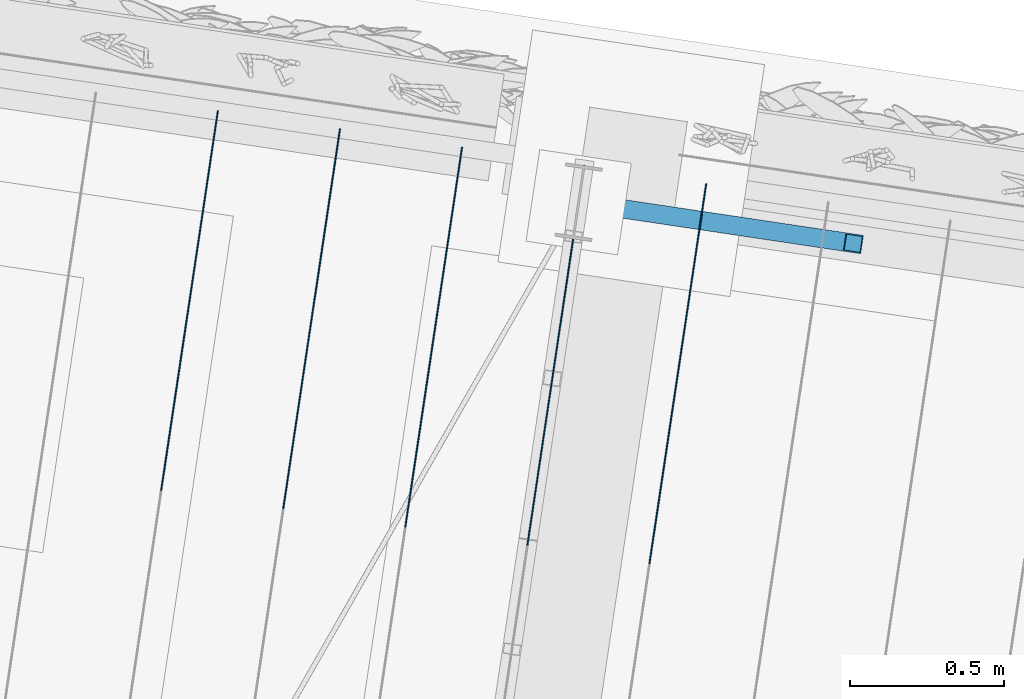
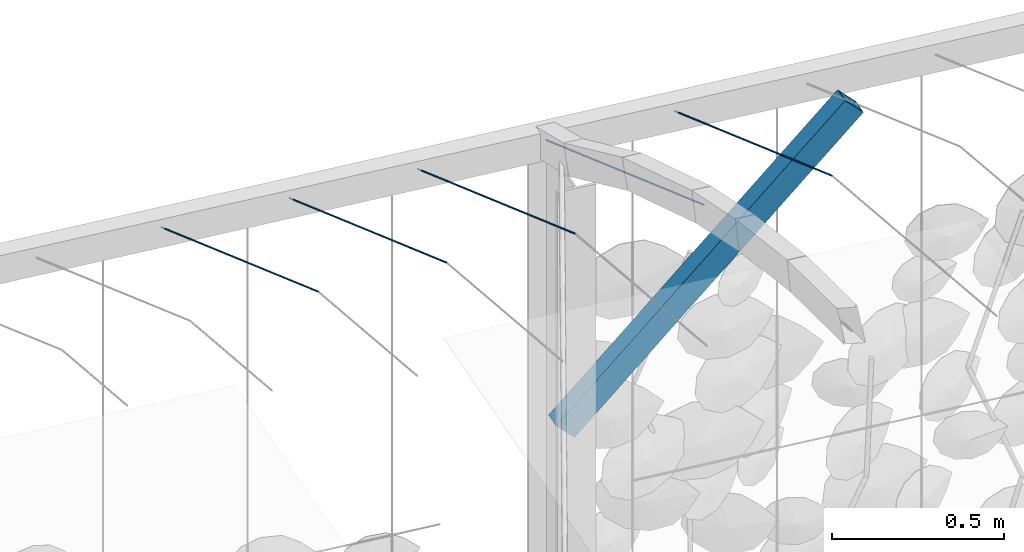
# One storey, part 34 of 142: 6 members, 1 element without a shape of its own.
"""IFC4 building model written with IfcOpenShell, lengths in metres."""

import ifcopenshell
import ifcopenshell.guid

model = None  # the IFC model being written
_history = None  # IfcOwnerHistory: only IFC2X3 demands one
_inside = {}  # id of a spatial element -> (the spatial element, [elements in it])
_under = {}  # id of a project, library or spatial element -> (it, [spatial elements below it])
_declared = {}  # id of a project -> (the project, [libraries it declares])
_typed = {}  # id of a type object -> (the type object, [elements of that type])
_made_of = {}  # id of a material, layer set ... -> (it, [elements and type objects made of it])


def new_model(schema):
    """Start an empty IFC model of exactly this schema.

    Asked for "IFC4X3", IfcOpenShell would pick the latest addendum, in which some entities
    have other attributes; the version numbers below select the first issue.
    IFC2X3 requires an IfcOwnerHistory on every rooted entity: one is made here for all.
    """
    global model, _history
    if schema == "IFC4X3":
        model = ifcopenshell.file(schema_version=(4, 3, 0, 0))
    else:
        model = ifcopenshell.file(schema=schema)
    _inside.clear()
    _under.clear()
    _declared.clear()
    _typed.clear()
    _made_of.clear()
    _history = None
    if model.schema == "IFC2X3":
        org = make("IfcOrganization", Name="unknown")
        user = make(
            "IfcPersonAndOrganization",
            ThePerson=make("IfcPerson", FamilyName="unknown"),
            TheOrganization=org,
        )
        app = make(
            "IfcApplication",
            ApplicationDeveloper=org,
            Version="unknown",
            ApplicationFullName="unknown",
            ApplicationIdentifier="unknown",
        )
        _history = make(
            "IfcOwnerHistory",
            OwningUser=user,
            OwningApplication=app,
            ChangeAction="ADDED",
            CreationDate=0,
        )
    return model


def make(cls, **values):
    """One entity of the class cls with the attributes given. An attribute that is None is left unset."""
    return model.create_entity(
        cls, **{name: value for name, value in values.items() if value is not None}
    )


def rooted(cls, **values):
    """An entity with a GlobalId (a new one), such as an element, a storey or a relation."""
    return make(cls, GlobalId=ifcopenshell.guid.new(), OwnerHistory=_history, **values)


def si_unit(unit_type, name, prefix=None):
    """IfcSIUnit, for example si_unit("LENGTHUNIT", "METRE", prefix="MILLI")."""
    return make("IfcSIUnit", UnitType=unit_type, Prefix=prefix, Name=name)


def assignment(units):
    """IfcUnitAssignment: the units of a project."""
    return None if units is None else make("IfcUnitAssignment", Units=units)


def point(xyz):
    """IfcCartesianPoint."""
    return None if xyz is None else make("IfcCartesianPoint", Coordinates=xyz)


def direction(xyz):
    """IfcDirection."""
    return None if xyz is None else make("IfcDirection", DirectionRatios=xyz)


def frame(location, z_axis=None, x_axis=None):
    """IfcAxis2Placement3D, a coordinate frame: its origin and axes. An axis left out is left unset."""
    return make(
        "IfcAxis2Placement3D",
        Location=point(location),
        Axis=direction(z_axis),
        RefDirection=direction(x_axis),
    )


def origin_with_axes():
    """The frame at (0, 0, 0) with the z axis (0, 0, 1) and the x axis (1, 0, 0) written out."""
    return frame((0.0, 0.0, 0.0), z_axis=(0.0, 0.0, 1.0), x_axis=(1.0, 0.0, 0.0))


def place(relative_to, where):
    """IfcLocalPlacement: puts the frame where relative to a parent placement (None: the world)."""
    return make(
        "IfcLocalPlacement", PlacementRelTo=relative_to, RelativePlacement=where
    )


def context(
    kind, dimensions, precision=None, world=None, true_north=None, identifier=None
):
    """IfcGeometricRepresentationContext, for example the 3D "Model" context."""
    return make(
        "IfcGeometricRepresentationContext",
        ContextIdentifier=identifier,
        ContextType=kind,
        CoordinateSpaceDimension=dimensions,
        Precision=precision,
        WorldCoordinateSystem=world,
        TrueNorth=true_north,
    )


def subcontext(parent, identifier, kind, view, scale=None):
    """IfcGeometricRepresentationSubContext, for example "Body" below "Model"."""
    return make(
        "IfcGeometricRepresentationSubContext",
        ContextIdentifier=identifier,
        ContextType=kind,
        ParentContext=parent,
        TargetScale=scale,
        TargetView=view,
    )


def project(units=None, contexts=None):
    """IfcProject with its units and contexts."""
    return rooted(
        "IfcProject",
        Name="project",
        RepresentationContexts=contexts,
        UnitsInContext=assignment(units),
    )


def spatial(cls, under=None, at=None, **own):
    """A site, building, storey or space (cls), placed at a placement, below another one or the project."""
    s = rooted(cls, ObjectPlacement=at, **own)
    if under is not None:
        _under.setdefault(under.id(), (under, []))[1].append(s)
    return s


def profile(cls, at=None, kind="AREA", **sizes):
    """A parametric profile (cls). Its sizes go by their IFC names, for example OverallWidth=200.0."""
    return make(cls, ProfileType=kind, Position=at, **sizes)


def hollow_rectangle(**sizes):
    """IfcRectangleHollowProfileDef."""
    return profile("IfcRectangleHollowProfileDef", **sizes)


def circle(**sizes):
    """IfcCircleProfileDef."""
    return profile("IfcCircleProfileDef", **sizes)


def extrude(swept, where, along, depth):
    """IfcExtrudedAreaSolid: the profile swept, set in the frame where, extruded along a direction by depth."""
    return make(
        "IfcExtrudedAreaSolid",
        SweptArea=swept,
        Position=where,
        ExtrudedDirection=direction(along),
        Depth=depth,
    )


def shape(context_of_items, identifier, shape_type, items):
    """IfcShapeRepresentation: the items that make up one representation, for example the "Body"."""
    return make(
        "IfcShapeRepresentation",
        ContextOfItems=context_of_items,
        RepresentationIdentifier=identifier,
        RepresentationType=shape_type,
        Items=items,
    )


def material(Name=None, Category=None):
    """IfcMaterial."""
    return make("IfcMaterial", Name=Name, Category=Category)


def material_profile(
    of_material, cross_section, Name=None, Category=None, Priority=None
):
    """IfcMaterialProfile: a cross section and its material."""
    return make(
        "IfcMaterialProfile",
        Name=Name,
        Material=of_material,
        Profile=cross_section,
        Priority=Priority,
        Category=Category,
    )


def profile_set(profiles, Name=None, composite=None):
    """IfcMaterialProfileSet."""
    return make(
        "IfcMaterialProfileSet",
        Name=Name,
        MaterialProfiles=profiles,
        CompositeProfile=composite,
    )


def profile_usage(for_profile_set, cardinal=None, extent=None):
    """IfcMaterialProfileSetUsage: how a profile set lies along its element."""
    return make(
        "IfcMaterialProfileSetUsage",
        ForProfileSet=for_profile_set,
        CardinalPoint=cardinal,
        ReferenceExtent=extent,
    )


def made_of(thing, what):
    """Note that an element or type object is made of a material, layer set ...; save() writes the relation."""
    if what is not None:
        _made_of.setdefault(what.id(), (what, []))[1].append(thing)
    return thing


def type_object(cls, material=None, **own):
    """A type object (cls), such as IfcWallType, which elements share."""
    return made_of(rooted(cls, **own), material)


def element(
    cls,
    number,
    at=None,
    inside=None,
    cuts=None,
    type_object=None,
    material=None,
    context=None,
    identifier="Body",
    shape_type=None,
    held_by="IfcProductDefinitionShape",
    body=None,
    shapes=None,
    **own,
):
    """One element of the class cls, such as IfcWall. Its Tag is "e" and its number.

    at: its placement. inside: the storey or other place that contains it. cuts: it is an
    opening in that element (IfcRelVoidsElement). A single representation is given by context,
    identifier, shape_type and body (its items); several are given by shapes. held_by: the class
    of the entity that holds the representations. save() writes the other relations.
    """
    e = rooted(cls, Tag="e%d" % number, ObjectPlacement=at, **own)
    if body is not None:
        shapes = [shape(context, identifier, shape_type, body)]
    if shapes is not None:
        e.Representation = make(held_by, Representations=shapes)
    if inside is not None:
        _inside.setdefault(inside.id(), (inside, []))[1].append(e)
    if cuts is not None:
        rooted(
            "IfcRelVoidsElement", RelatingBuildingElement=cuts, RelatedOpeningElement=e
        )
    if type_object is not None:
        _typed.setdefault(type_object.id(), (type_object, []))[1].append(e)
    return made_of(e, material)


def aggregate(whole, parts):
    """IfcRelAggregates: a whole, such as a stair, and the parts it consists of."""
    return rooted("IfcRelAggregates", RelatingObject=whole, RelatedObjects=parts)


def save(model, path):
    """Write the relations noted so far, then the file.

    IfcRelAggregates (storeys below a building ...), IfcRelContainedInSpatialStructure (elements
    in a storey), IfcRelDefinesByType, IfcRelAssociatesMaterial and IfcRelDeclares: one each for
    every whole, place, type object, material and project.
    """
    for whole, parts in _under.values():
        aggregate(whole, parts)
    for where, things in _inside.values():
        rooted(
            "IfcRelContainedInSpatialStructure",
            RelatedElements=things,
            RelatingStructure=where,
        )
    for kind, things in _typed.values():
        rooted("IfcRelDefinesByType", RelatedObjects=things, RelatingType=kind)
    for what, things in _made_of.values():
        rooted("IfcRelAssociatesMaterial", RelatedObjects=things, RelatingMaterial=what)
    for by, libraries in _declared.values():
        rooted("IfcRelDeclares", RelatingContext=by, RelatedDefinitions=libraries)
    model.write(path)


model = new_model("IFC4")

# Units and contexts
model_context = context("Model", 3, precision=1e-05, world=origin_with_axes(), true_north=direction((0.0, 1.0)))
body_context = subcontext(model_context, "Body", "Model", "MODEL_VIEW")
ifc_project = project(units=[si_unit("AREAUNIT", "SQUARE_METRE"), si_unit("VOLUMEUNIT", "CUBIC_METRE"), si_unit("LENGTHUNIT", "METRE")], contexts=[model_context])

# Site, building, storey
site_placement = place(None, origin_with_axes())
site = spatial("IfcSite", under=ifc_project, at=site_placement, Name="Lares · Rua das Mercês · artigo 4771")
building_placement = place(site_placement, frame((15.0, 9.7, 14.65), z_axis=(0.0, 0.0, 1.0), x_axis=(0.989015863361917, -0.147809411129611, 0.0)))
building = spatial("IfcBuilding", under=site, at=building_placement, Name="Casa Sobreposta")
storey_placement = place(building_placement, origin_with_axes())
storey = spatial("IfcBuildingStorey", under=building, at=storey_placement, Name="00 · Habitação e estacionamento", Elevation=14.65)

# Assembly, members
assembly_placement = place(storey_placement, origin_with_axes())
assembly = element("IfcElementAssembly", 1, at=assembly_placement, inside=storey, Name="Pérgola · prolongamento da estufa 6 m", ObjectType="PERGOLA_GREENHOUSE_EXTENSION", PredefinedType="USERDEFINED")
ifc_material_1 = material(Name="Aço pintado / Stahl lackiert", Category="steel")
ifc_material_profile_1 = material_profile(ifc_material_1, hollow_rectangle(XDim=0.06, YDim=0.08, WallThickness=0.004))
ifc_profile_set_1 = profile_set([ifc_material_profile_1], Name="RHS80x60x4")
ifc_profile_usage_1 = profile_usage(ifc_profile_set_1)
member_type_1 = type_object("IfcMemberType", Name="RHS80x60x4 / steel", PredefinedType="NOTDEFINED", material=ifc_profile_set_1)
member_1_placement = place(assembly_placement, frame((-3.0, 6.28, 5.3), z_axis=(0.699294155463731, 0.0, 0.714834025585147), x_axis=(0.0, -1.0, 0.0)))
member_1 = element("IfcMember", 2, at=member_1_placement, type_object=member_type_1, material=ifc_profile_usage_1, Name="Pérgola · escora alta", context=body_context, shape_type="SweptSolid", body=[
    extrude(hollow_rectangle(XDim=0.06, YDim=0.08, WallThickness=0.004), origin_with_axes(), (0.0, 0.0, 1.0), 1.28701204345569),
])
ifc_material_2 = material(Name="Aço galvanizado / Stahl verzinkt", Category="steel")
ifc_material_profile_2 = material_profile(ifc_material_2, circle(Radius=0.002))
ifc_profile_set_2 = profile_set([ifc_material_profile_2], Name="D0.004")
ifc_profile_usage_2 = profile_usage(ifc_profile_set_2)
member_type_2 = type_object("IfcMemberType", Name="D0.004 / galvanized", PredefinedType="NOTDEFINED", material=ifc_profile_set_2)
member_2_placement = place(assembly_placement, frame((-4.2, 5.15650506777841, 6.8157371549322), z_axis=(0.0, 0.905864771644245, -0.423567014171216), x_axis=(1.0, 0.0, 0.0)))
member_2 = element("IfcMember", 3, at=member_2_placement, type_object=member_type_2, material=ifc_profile_usage_2, Name="Pérgola · fio para trepadeiras", context=body_context, shape_type="SweptSolid", body=[
    extrude(circle(Radius=0.002), origin_with_axes(), (0.0, 0.0, 1.0), 1.3727158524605),
])
ifc_profile_usage_3 = profile_usage(ifc_profile_set_2)
member_3_placement = place(assembly_placement, frame((-3.8, 5.15650506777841, 6.8157371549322), z_axis=(0.0, 0.905864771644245, -0.423567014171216), x_axis=(1.0, 0.0, 0.0)))
member_3 = element("IfcMember", 4, at=member_3_placement, type_object=member_type_2, material=ifc_profile_usage_3, Name="Pérgola · fio para trepadeiras", context=body_context, shape_type="SweptSolid", body=[
    extrude(circle(Radius=0.002), origin_with_axes(), (0.0, 0.0, 1.0), 1.3727158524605),
])
ifc_profile_usage_4 = profile_usage(ifc_profile_set_2)
member_4_placement = place(assembly_placement, frame((-3.4, 5.15650506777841, 6.8157371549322), z_axis=(0.0, 0.905864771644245, -0.423567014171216), x_axis=(1.0, 0.0, 0.0)))
member_4 = element("IfcMember", 5, at=member_4_placement, type_object=member_type_2, material=ifc_profile_usage_4, Name="Pérgola · fio para trepadeiras", context=body_context, shape_type="SweptSolid", body=[
    extrude(circle(Radius=0.002), origin_with_axes(), (0.0, 0.0, 1.0), 1.3727158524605),
])
ifc_profile_usage_5 = profile_usage(ifc_profile_set_2)
member_5_placement = place(assembly_placement, frame((-3.0, 5.15650506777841, 6.8157371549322), z_axis=(0.0, 0.905864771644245, -0.423567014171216), x_axis=(1.0, 0.0, 0.0)))
member_5 = element("IfcMember", 6, at=member_5_placement, type_object=member_type_2, material=ifc_profile_usage_5, Name="Pérgola · fio para trepadeiras", context=body_context, shape_type="SweptSolid", body=[
    extrude(circle(Radius=0.002), origin_with_axes(), (0.0, 0.0, 1.0), 1.3727158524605),
])
ifc_profile_usage_6 = profile_usage(ifc_profile_set_2)
member_6_placement = place(assembly_placement, frame((-2.6, 5.15650506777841, 6.8157371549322), z_axis=(0.0, 0.905864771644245, -0.423567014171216), x_axis=(1.0, 0.0, 0.0)))
member_6 = element("IfcMember", 7, at=member_6_placement, type_object=member_type_2, material=ifc_profile_usage_6, Name="Pérgola · fio para trepadeiras", context=body_context, shape_type="SweptSolid", body=[
    extrude(circle(Radius=0.002), origin_with_axes(), (0.0, 0.0, 1.0), 1.3727158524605),
])
aggregate(assembly, [member_1, member_2, member_3, member_4, member_5, member_6])

save(model, "model.ifc")
